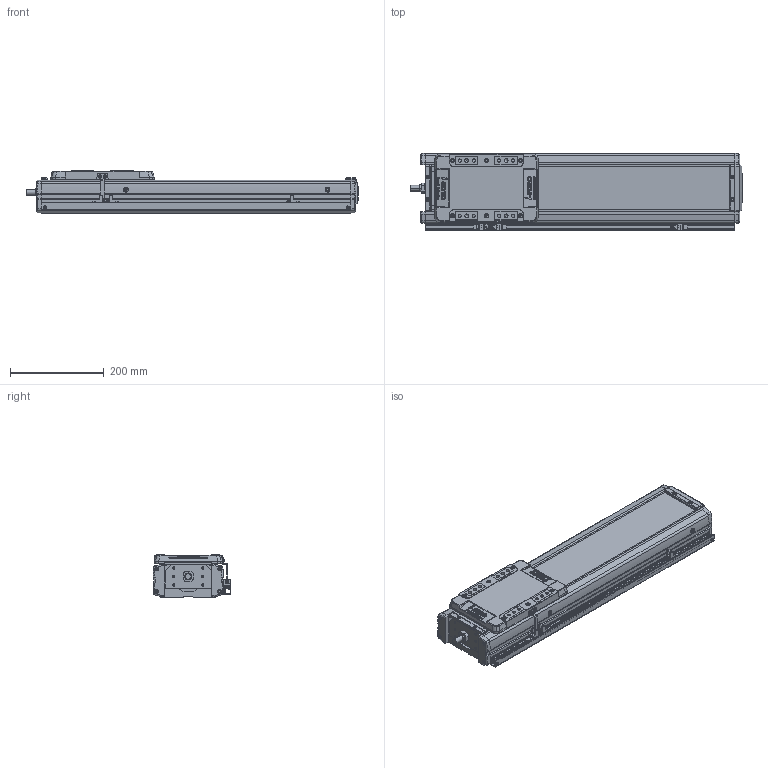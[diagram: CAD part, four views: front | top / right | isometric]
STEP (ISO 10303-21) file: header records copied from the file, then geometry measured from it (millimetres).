
FILE_DESCRIPTION(('STEP AP214'),'1');
FILE_NAME('Z:/Web/3D/SAN150/2013.04 (STP.)/SAN150ㅁㅁ-400+3SR.stp','2013-05-07T23:36:00',(' '),(' '),'Spatial InterOp 3D',' ',' ');
FILE_SCHEMA(('automotive_design'));
Length unit declared in the file: millimetre
Products named in the file (53): SLBL-SAN150; SLCV-SAN150; FHCS M4.0 x 8.0; BHCS M4.0 x 10.0; SFX-SAN150; RRCV-SAN150; FRBL-SAN150; Spacer; RN15; FRCV-SAN150; Screw 20; BASE-SAN150-000L ; SUS COVER; 스크루 : Round - M5.0 x 6.0; M3.0 x 6.0; SRL-16x17-360L; SGD-SAN150; EE-SX674; SBK-SX674-352; 스크루 : Round - M3.0 x 6.0
Bounding box: 708 x 166 x 90 mm (x, y, z)
Volume: 4190931.7 mm3; surface area: 856037.7 mm2
Topology: 53 solids, 53 shells, 2500 faces, 6454 edges, 4155 vertices
Faces by surface type: plane 1342, cylinder 807, cone 250, sphere 68, bspline 21, torus 12
Entity records: 99075 total; most frequent: CARTESIAN_POINT 15676, DIRECTION 13586, ORIENTED_EDGE 12708, EDGE_CURVE 6354, AXIS2_PLACEMENT_3D 4780, VERTEX_POINT 4155, LINE 4026, VECTOR 4026
